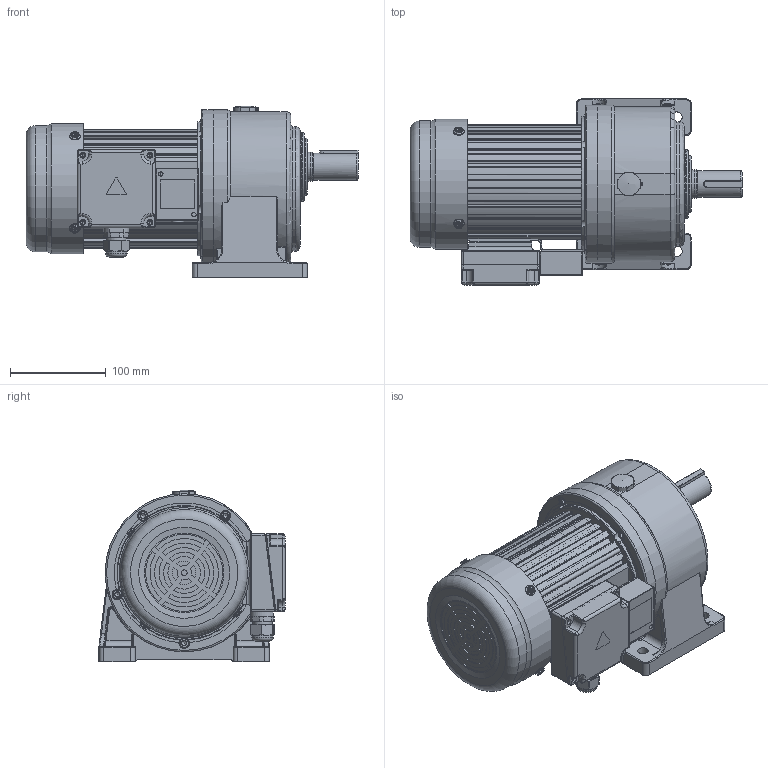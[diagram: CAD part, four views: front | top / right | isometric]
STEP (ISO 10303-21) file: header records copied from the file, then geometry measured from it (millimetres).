
FILE_DESCRIPTION(/* description */ (''),/* implementation_level */ '2;1');
FILE_NAME(/* name */ 'CH28-200-3～200外形多速比带刹车.stp',/* time_stamp */ '2025-05-02T10:06:45+08:00',/* author */ (''),/* organization */ (''),/* preprocessor_version */ 'ST-DEVELOPER v18.102',/* originating_system */ 'SIEMENS PLM Software NX 2027',/* authorisation */ '');
FILE_SCHEMA (('AP203_CONFIGURATION_CONTROLLED_3D_DESIGN_OF_MECHANICAL_PARTS_AND_ASSEMBLIES_MIM_LF { 1 0 10303 403 2 1 2}'));
Length unit declared in the file: millimetre
Products named in the file (1): CH28-200-3～200外形多速比带刹车_
objects
Bounding box: 346.5 x 194.25 x 179.3 mm (x, y, z)
Volume: 4637265.9 mm3; surface area: 424905.6 mm2
Topology: 24 solids, 24 shells, 3422 faces, 8869 edges, 5637 vertices
Faces by surface type: plane 1904, cylinder 892, cone 243, torus 178, extrusion 96, bspline 68, sphere 25, revolution 16
Full cylindrical faces by diameter (mm): 1 x1, 1.8 x1, 3 x1, 3.3 x4, 3.5 x1, 4 x1, 4.2 x8, 4.336 x2, 4.5 x2, 4.826 x2, 5 x4, 5.795 x5, 6 x1, 6.4 x4, 7 x4, 10 x5, 11 x13, 12.5 x1, 13 x1, 13.98 x1, 14.5 x1, 16 x3, 17 x2, 19.5 x1, 20 x3, 21 x1, 22.5 x1, 27.6 x1, 28 x1, 30 x2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
Entity records: 112853 total; most frequent: CARTESIAN_POINT 32129, ORIENTED_EDGE 17198, DIRECTION 15677, EDGE_CURVE 8599, VERTEX_POINT 5567, AXIS2_PLACEMENT_3D 5388, VECTOR 4885, LINE 4789
